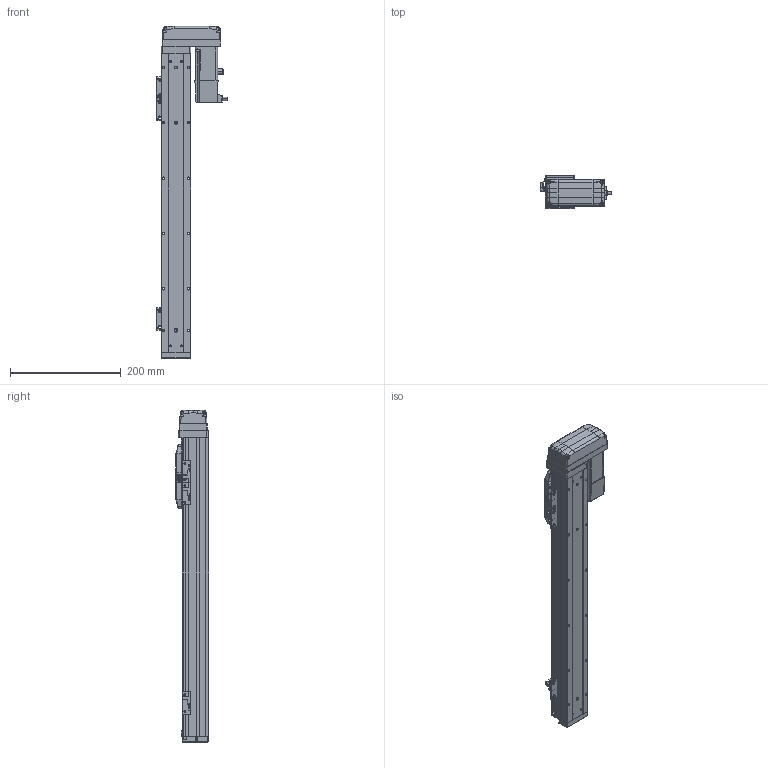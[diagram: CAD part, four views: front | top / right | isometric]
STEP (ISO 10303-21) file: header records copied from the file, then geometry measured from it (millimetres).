
FILE_DESCRIPTION (( 'STEP AP203' ), '1' );
FILE_NAME ('8.STEP', '2021-01-04T05:44:06', ( '' ), ( '' ), 'SwSTEP 2.0', 'SolidWorks 2016', '' );
FILE_SCHEMA (( 'CONFIG_CONTROL_DESIGN' ));
Length unit declared in the file: millimetre
Products named in the file (10): CTH5-BL-02; CTH5-BL-03; CTH5-BL-05; CTH5-BL-07; PM-Y45; CTH5-BL-T10; CTH5-BL-01; 8; CTH5-BL-菁釱; CTH5-BL-HZ
Assembly tree (14 placements, depth 2):
  8
    CTH5-BL-菁釱
    CTH5-BL-01
    CTH5-BL-02
    CTH5-BL-03
    CTH5-BL-05  x2
    CTH5-BL-07  x3
    CTH5-BL-HZ
    CTH5-BL-T10
    PM-Y45  x3
Bounding box: 129.75 x 60 x 599.9 mm (x, y, z)
Volume: 1406788.6 mm3; surface area: 278192.4 mm2
Topology: 30 solids, 30 shells, 1526 faces, 4077 edges, 2586 vertices
Faces by surface type: plane 699, cylinder 577, cone 152, bspline 70, torus 24, sphere 4
Entity records: 46709 total; most frequent: CARTESIAN_POINT 13503, ORIENTED_EDGE 6838, DIRECTION 6466, EDGE_CURVE 3419, AXIS2_PLACEMENT_3D 2287, VERTEX_POINT 2186, LINE 1892, VECTOR 1892
